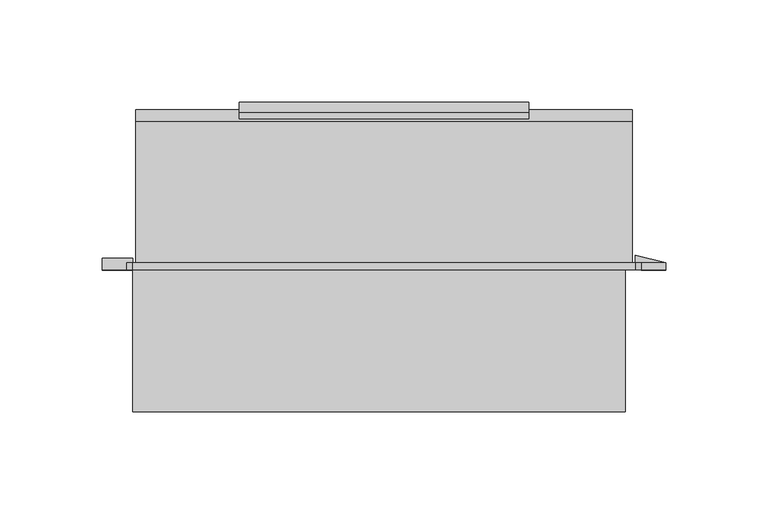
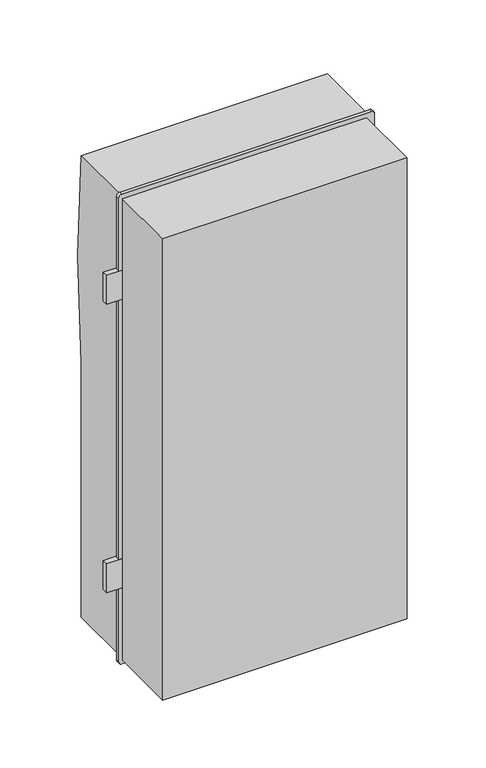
"""IFC4 building model written with IfcOpenShell, lengths in millimetres: proxy geometry, КВУ-3_9-9 : КВУ-3/9-9."""

from ifc_helpers import new_model, si_unit, point, frame, frame_2d, origin, place, context, project, spatial, polyline, circle_curve, trimmed, segment, composite_curve, outline, extrude, source, transform, mapped, element, save


def electrical_equipment_cdf7333c(model_context):
    return source(origin(), model_context, "Body", "SweptSolid", [
        extrude(outline(composite_curve([segment(polyline([(148.6642613, 78.3956674), (144.9814334, 78.3956674), (144.9814334, 212.7292897), (148.5168115, 212.7292897)]), True, "CONTINUOUS"), segment(trimmed(circle_curve(frame_2d((-309.0920059, 145.0601084)), 462.585071), [point((148.5168115, 212.7292897))], [point((148.6642613, 78.3956674))], False, "CARTESIAN"), True, "CONTINUOUS")], self_intersect=False)), frame((-70.7880774, 0.0, 0.0), z_axis=(1.0, 0.0, 0.0), x_axis=(0.0, 1.0, 0.0)), (0.0, 0.0, 1.0), 141.5761549),
        extrude(outline(composite_curve([segment(polyline([(74.84375, 240.1187034), (143.8425895, 240.1187034)]), True, "CONTINUOUS"), segment(trimmed(circle_curve(frame_2d((-818.3879271, 132.4850019)), 968.2316772), [point((143.8425895, 240.1187034))], [point((143.8322064, 24.7585174))], False, "CARTESIAN"), True, "CONTINUOUS"), segment(trimmed(circle_curve(frame_2d((-1278.7033603, -107.5012395)), 1428.6707394), [point((143.8322064, 24.7585174))], [point((143.800417, -240.1024659))], False, "CARTESIAN"), True, "CONTINUOUS"), segment(polyline([(143.800417, -240.1024659), (74.84375, -240.1024659), (74.84375, 240.1187034)]), True, "CONTINUOUS")], self_intersect=False)), frame((-121.5, 0.0, 0.0), z_axis=(1.0, 0.0, 0.0), x_axis=(0.0, 1.0, 0.0)), (0.0, 0.0, 1.0), 243.0),
        extrude(outline(polyline([(123.0, 78.48187), (138.0, 74.84375), (123.0, 74.84375), (123.0, 78.48187)])), frame((0.0, 0.0, -175.9375), z_axis=(0.0, 0.0, 1.0), x_axis=(1.0, 0.0, 0.0)), (0.0, 0.0, 1.0), 2.0),
        extrude(outline(polyline([(123.0, 78.48187), (138.0, 74.84375), (123.0, 74.84375), (123.0, 78.48187)])), frame((0.0, 0.0, -161.1749873), z_axis=(0.0, 0.0, 1.0), x_axis=(1.0, 0.0, 0.0)), (0.0, 0.0, 1.0), 2.0),
        extrude(outline(polyline([(123.0, 78.48187), (138.0, 74.84375), (123.0, 74.84375), (123.0, 78.48187)])), frame((0.0, 0.0, -8.137054), z_axis=(0.0, 0.0, 1.0), x_axis=(1.0, 0.0, 0.0)), (0.0, 0.0, 1.0), 2.0),
        extrude(outline(polyline([(123.0, 78.48187), (138.0, 74.84375), (123.0, 74.84375), (123.0, 78.48187)])), frame((0.0, 0.0, 6.6254588), z_axis=(0.0, 0.0, 1.0), x_axis=(1.0, 0.0, 0.0)), (0.0, 0.0, 1.0), 2.0),
        extrude(outline(polyline([(123.0, 78.48187), (138.0, 74.84375), (123.0, 74.84375), (123.0, 78.48187)])), frame((0.0, 0.0, 171.1749873), z_axis=(0.0, 0.0, 1.0), x_axis=(1.0, 0.0, 0.0)), (0.0, 0.0, 1.0), 2.0),
        extrude(outline(polyline([(123.0, 78.48187), (138.0, 74.84375), (123.0, 74.84375), (123.0, 78.48187)])), frame((0.0, 0.0, 185.9375), z_axis=(0.0, 0.0, 1.0), x_axis=(1.0, 0.0, 0.0)), (0.0, 0.0, 1.0), 2.0),
        extrude(outline(polyline([(138.0, 71.3243957), (126.0, 71.3243957), (126.0, 74.84375), (138.0, 74.84375), (138.0, 71.3243957)])), frame((0.0, 0.0, -182.4758921), z_axis=(0.0, 0.0, 1.0), x_axis=(1.0, 0.0, 0.0)), (0.0, 0.0, 1.0), 29.3508921),
        extrude(outline(polyline([(138.0, 71.3243957), (126.0, 71.3243957), (126.0, 74.84375), (138.0, 74.84375), (138.0, 71.3243957)])), frame((0.0, 0.0, -14.675446), z_axis=(0.0, 0.0, 1.0), x_axis=(1.0, 0.0, 0.0)), (0.0, 0.0, 1.0), 29.3508921),
        extrude(outline(polyline([(138.0, 71.3243957), (126.0, 71.3243957), (126.0, 74.84375), (138.0, 74.84375), (138.0, 71.3243957)])), frame((0.0, 0.0, 165.0), z_axis=(0.0, 0.0, 1.0), x_axis=(1.0, 0.0, 0.0)), (0.0, 0.0, 1.0), 29.3508921),
        extrude(outline(polyline([(-123.0, 71.3243957), (-138.0, 71.3243957), (-138.0, 77.0387255), (-123.0, 77.0387255), (-123.0, 71.3243957)])), frame((0.0, 0.0, -165.1750375), z_axis=(0.0, 0.0, 1.0), x_axis=(1.0, 0.0, 0.0)), (0.0, 0.0, 1.0), 30.1750375),
        extrude(outline(polyline([(-123.0, 71.3243957), (-138.0, 71.3243957), (-138.0, 77.0387255), (-123.0, 77.0387255), (-123.0, 71.3243957)])), frame((0.0, 0.0, 135.0), z_axis=(0.0, 0.0, 1.0), x_axis=(1.0, 0.0, 0.0)), (0.0, 0.0, 1.0), 30.1750375),
        extrude(outline(composite_curve([segment(polyline([(244.4644661, 122.9568648), (244.4644661, -122.9568648)]), True, "CONTINUOUS"), segment(trimmed(circle_curve(frame_2d((241.4213309, -122.9568648)), 3.0431352), [point((244.4644661, -122.9568648))], [point((241.4213309, -126.0))], False, "CARTESIAN"), True, "CONTINUOUS"), segment(polyline([(241.4213309, -126.0), (-241.4213309, -126.0)]), True, "CONTINUOUS"), segment(trimmed(circle_curve(frame_2d((-241.4213309, -122.9568648)), 3.0431352), [point((-241.4213309, -126.0))], [point((-244.4644661, -122.9568648))], False, "CARTESIAN"), True, "CONTINUOUS"), segment(polyline([(-244.4644661, -122.9568648), (-244.4644661, 122.9568648)]), True, "CONTINUOUS"), segment(trimmed(circle_curve(frame_2d((-241.4213309, 122.9568648)), 3.0431352), [point((-244.4644661, 122.9568648))], [point((-241.4213309, 126.0))], False, "CARTESIAN"), True, "CONTINUOUS"), segment(polyline([(-241.4213309, 126.0), (241.4213309, 126.0)]), True, "CONTINUOUS"), segment(trimmed(circle_curve(frame_2d((241.4213309, 122.9568648)), 3.0431352), [point((241.4213309, 126.0))], [point((244.4644661, 122.9568648))], False, "CARTESIAN"), True, "CONTINUOUS")], self_intersect=False)), frame((0.0, 71.3243957, 0.0), z_axis=(0.0, 1.0, 0.0), x_axis=(0.0, 0.0, 1.0)), (0.0, 0.0, 1.0), 3.5193543),
        extrude(outline(polyline([(118.0, 2.0), (-123.0, 2.0), (-123.0, 71.3243957), (118.0, 71.3243957), (118.0, 2.0)])), frame((0.0, 0.0, -240.0), z_axis=(0.0, 0.0, 1.0), x_axis=(1.0, 0.0, 0.0)), (0.0, 0.0, 1.0), 480.0),
    ])


if __name__ == "__main__":
    model = new_model("IFC4")
    model_context = context("Model", 3, world=origin())
    ifc_project = project(units=[si_unit("LENGTHUNIT", "METRE", prefix="MILLI")], contexts=[model_context])
    site = spatial("IfcSite", under=ifc_project)
    building = spatial("IfcBuilding", under=site)
    placement = place(None, origin())
    electrical_equipment_shape = electrical_equipment_cdf7333c(model_context)
    element("IfcBuildingElementProxy", 1, Name="КВУ-3_9-9 : КВУ-3/9-9", ObjectType="КВУ-3_9-9 : КВУ-3/9-9", at=placement, inside=building, context=model_context, shape_type="MappedRepresentation", body=[
        mapped(electrical_equipment_shape, transform((0.0, 0.0, 0.0), x_axis=(1.0, 0.0, 0.0), y_axis=(0.0, 1.0, 0.0), z_axis=(0.0, 0.0, 1.0))),
    ])
    save(model, "model.ifc")
